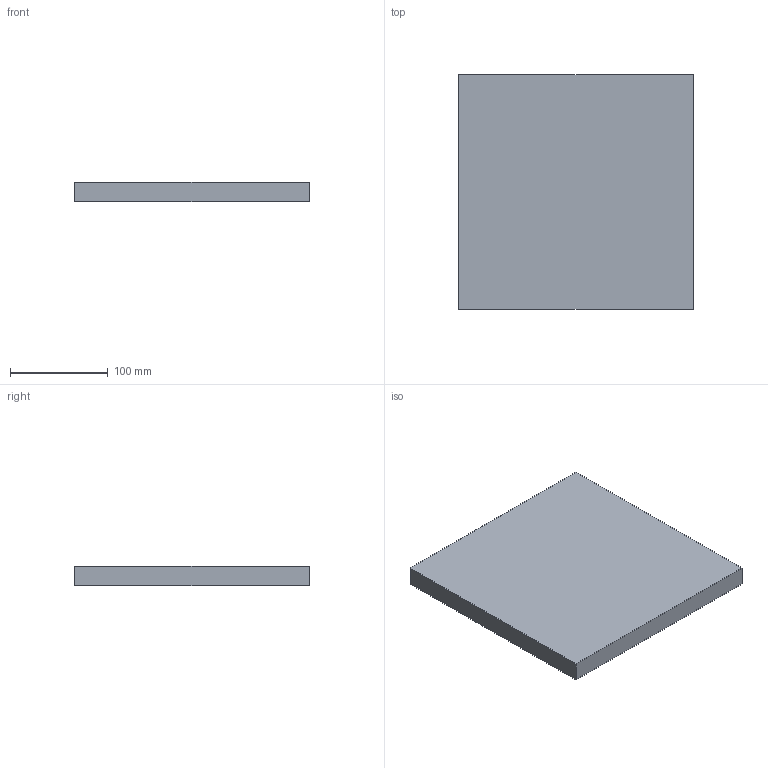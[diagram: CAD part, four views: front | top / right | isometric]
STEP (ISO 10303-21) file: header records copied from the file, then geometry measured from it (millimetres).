
FILE_DESCRIPTION(('Open CASCADE Model'),'2;1');
FILE_NAME('Open CASCADE Shape Model','2026-10-10T15:34:57',('Author'),( 'Open CASCADE'),'Open CASCADE STEP processor 7.9','Open CASCADE 7.9' ,'Unknown');
FILE_SCHEMA(('AUTOMOTIVE_DESIGN { 1 0 10303 214 1 1 1 1 }'));
Length unit declared in the file: millimetre
Products named in the file (1): Open CASCADE STEP translator 7.9 2
Bounding box: 240 x 240 x 20 mm (x, y, z)
Volume: 1152000 mm3; surface area: 134400 mm2
Topology: 1 solids, 1 shells, 6 faces, 12 edges, 8 vertices
Faces by surface type: plane 6
Entity records: 322 total; most frequent: CARTESIAN_POINT 51, DIRECTION 50, LINE 36, VECTOR 36, ORIENTED_EDGE 24, PCURVE 24, DEFINITIONAL_REPRESENTATION 24, EDGE_CURVE 12
